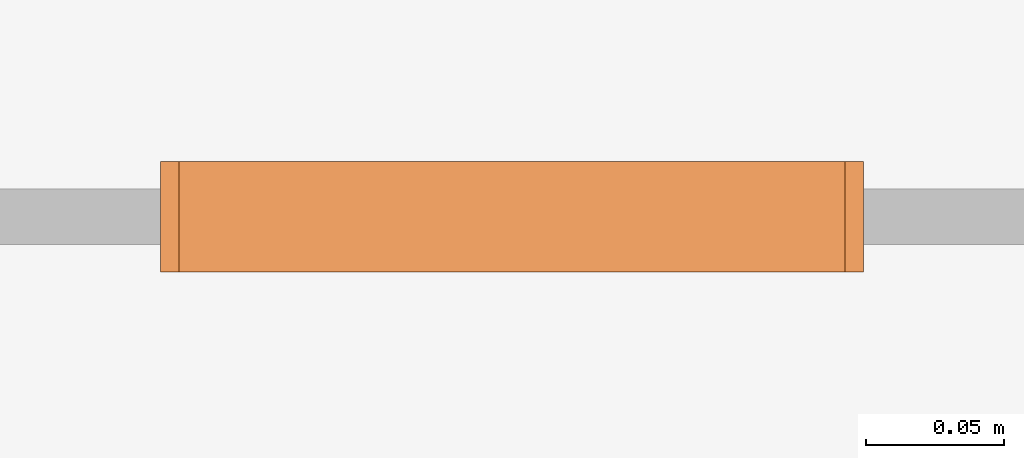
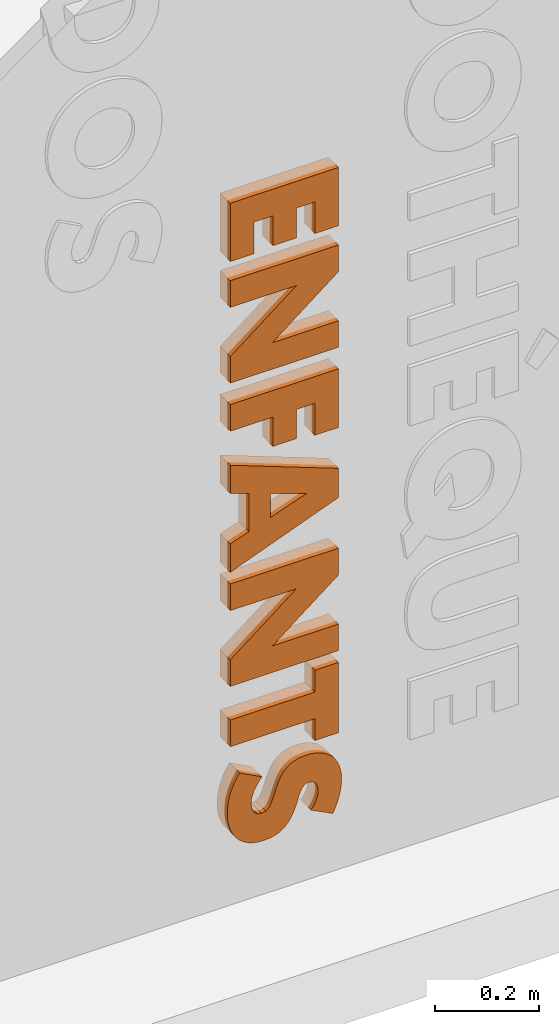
# One storey, part 60 of 64: 1 proxy.
"""IFC2X3 building model written with IfcOpenShell, lengths in metres."""

from ifc_helpers import new_model, entity, si_unit, converted_unit, derived_unit, direction, frame, origin, place, context, subcontext, project, spatial, faceted_brep, source, transform, mapped, material, type_object, type_shapes, element, save


model = new_model("IFC2X3")

# Units and contexts
model_context = context("Model", 3, precision=1e-05, world=origin(), true_north=direction((6.123031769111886e-17, 1.0)))
body_context = subcontext(model_context, "Body", "Model", "MODEL_VIEW")
ifc_project = project(units=[si_unit("LENGTHUNIT", "METRE"), si_unit("AREAUNIT", "SQUARE_METRE"), si_unit("VOLUMEUNIT", "CUBIC_METRE"), converted_unit("PLANEANGLEUNIT", "DEGREE", entity("IfcRatioMeasure", 0.017453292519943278), si_unit("PLANEANGLEUNIT", "RADIAN"), dimensions=[0, 0, 0, 0, 0, 0, 0]), si_unit("MASSUNIT", "GRAM", prefix="KILO"), derived_unit("MASSDENSITYUNIT", [(si_unit("MASSUNIT", "GRAM", prefix="KILO"), 1), (si_unit("LENGTHUNIT", "METRE"), -3)]), derived_unit("MOMENTOFINERTIAUNIT", [(si_unit("LENGTHUNIT", "METRE"), 4)]), si_unit("TIMEUNIT", "SECOND"), si_unit("FREQUENCYUNIT", "HERTZ"), si_unit("THERMODYNAMICTEMPERATUREUNIT", "DEGREE_CELSIUS"), derived_unit("THERMALTRANSMITTANCEUNIT", [(si_unit("MASSUNIT", "GRAM", prefix="KILO"), 1), (si_unit("THERMODYNAMICTEMPERATUREUNIT", "KELVIN"), -1), (si_unit("TIMEUNIT", "SECOND"), -3)]), derived_unit("THERMALCONDUCTANCEUNIT", [(si_unit("MASSUNIT", "GRAM", prefix="KILO"), 1), (si_unit("LENGTHUNIT", "METRE"), 1), (si_unit("THERMODYNAMICTEMPERATUREUNIT", "KELVIN"), -1), (si_unit("TIMEUNIT", "SECOND"), -3)]), derived_unit("VOLUMETRICFLOWRATEUNIT", [(si_unit("LENGTHUNIT", "METRE"), 3), (si_unit("TIMEUNIT", "SECOND"), -1)]), derived_unit("MASSFLOWRATEUNIT", [(si_unit("MASSUNIT", "GRAM", prefix="KILO"), 1), (si_unit("TIMEUNIT", "SECOND"), -1)]), derived_unit("ROTATIONALFREQUENCYUNIT", [(si_unit("TIMEUNIT", "SECOND"), -1)]), si_unit("ELECTRICCURRENTUNIT", "AMPERE"), si_unit("ELECTRICVOLTAGEUNIT", "VOLT"), si_unit("POWERUNIT", "WATT"), si_unit("FORCEUNIT", "NEWTON", prefix="KILO"), si_unit("ILLUMINANCEUNIT", "LUX"), si_unit("LUMINOUSFLUXUNIT", "LUMEN"), si_unit("LUMINOUSINTENSITYUNIT", "CANDELA"), derived_unit("USERDEFINED", [(si_unit("MASSUNIT", "GRAM", prefix="KILO"), -1), (si_unit("LENGTHUNIT", "METRE"), -2), (si_unit("TIMEUNIT", "SECOND"), 3), (si_unit("LUMINOUSFLUXUNIT", "LUMEN"), 1)]), derived_unit("USERDEFINED", [(si_unit("MASSUNIT", "GRAM", prefix="KILO"), 1), (si_unit("LENGTHUNIT", "METRE"), 3), (si_unit("TIMEUNIT", "SECOND"), -3), (si_unit("ELECTRICCURRENTUNIT", "AMPERE"), -2)]), derived_unit("USERDEFINED", [(si_unit("LENGTHUNIT", "METRE"), 2), (si_unit("TIMEUNIT", "SECOND"), -2)]), derived_unit("SOUNDPOWERUNIT", [(si_unit("MASSUNIT", "GRAM", prefix="KILO"), 1), (si_unit("LENGTHUNIT", "METRE"), 2), (si_unit("TIMEUNIT", "SECOND"), -3)]), derived_unit("SOUNDPRESSUREUNIT", [(si_unit("MASSUNIT", "GRAM", prefix="KILO"), 1), (si_unit("LENGTHUNIT", "METRE"), -1), (si_unit("TIMEUNIT", "SECOND"), -2)]), derived_unit("LINEARVELOCITYUNIT", [(si_unit("LENGTHUNIT", "METRE"), 1), (si_unit("TIMEUNIT", "SECOND"), -1)]), si_unit("PRESSUREUNIT", "PASCAL"), derived_unit("USERDEFINED", [(si_unit("LENGTHUNIT", "METRE"), -2), (si_unit("MASSUNIT", "GRAM", prefix="KILO"), 1), (si_unit("TIMEUNIT", "SECOND"), -2)]), derived_unit("LINEARFORCEUNIT", [(si_unit("MASSUNIT", "GRAM", prefix="KILO"), 1), (si_unit("LENGTHUNIT", "METRE"), 1), (si_unit("TIMEUNIT", "SECOND"), -2), (si_unit("LENGTHUNIT", "METRE"), -1)]), derived_unit("PLANARFORCEUNIT", [(si_unit("MASSUNIT", "GRAM", prefix="KILO"), 1), (si_unit("LENGTHUNIT", "METRE"), 1), (si_unit("TIMEUNIT", "SECOND"), -2), (si_unit("LENGTHUNIT", "METRE"), -2)]), derived_unit("SPECIFICHEATCAPACITYUNIT", [(si_unit("LENGTHUNIT", "METRE"), 2), (si_unit("TIMEUNIT", "SECOND"), -2), (si_unit("THERMODYNAMICTEMPERATUREUNIT", "KELVIN"), -1)]), derived_unit("VAPORPERMEABILITYUNIT", [(si_unit("TIMEUNIT", "SECOND"), 1), (si_unit("LENGTHUNIT", "METRE"), -1)]), derived_unit("DYNAMICVISCOSITYUNIT", [(si_unit("MASSUNIT", "GRAM", prefix="KILO"), 1), (si_unit("LENGTHUNIT", "METRE"), -1), (si_unit("TIMEUNIT", "SECOND"), -1)]), derived_unit("THERMALEXPANSIONCOEFFICIENTUNIT", [(si_unit("THERMODYNAMICTEMPERATUREUNIT", "KELVIN"), -1)])], contexts=[model_context])

# Site, building, storey
site_placement = place(None, origin())
site = spatial("IfcSite", under=ifc_project, at=site_placement, Name="Default", CompositionType="ELEMENT")
building_placement = place(site_placement, origin())
building = spatial("IfcBuilding", under=site, at=building_placement, CompositionType="ELEMENT")
storey_placement = place(building_placement, origin())
storey = spatial("IfcBuildingStorey", under=building, at=storey_placement, Name="REZ-DE-CHAUSSÉE", CompositionType="ELEMENT", Elevation=0.0)

# Proxy
ifc_material = material(Name="Air - Vide d'air")
building_element_proxy_type = type_object("IfcBuildingElementProxyType", Name="Symb-0004", PredefinedType="NOTDEFINED", material=ifc_material)
shared_shape = source(origin(), body_context, "Body", "Brep", [
    faceted_brep([(0.19488000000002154, 0.04000000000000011, 1.3891200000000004), (0.24800000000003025, 0.04000000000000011, 1.3891200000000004), (0.24800000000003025, 0.0, 1.3891200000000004), (0.19488000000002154, 0.0, 1.3891200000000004), (0.24800000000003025, 0.04000000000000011, 1.5264000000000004), (0.0067200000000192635, 0.04000000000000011, 1.5264000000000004), (0.0067200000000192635, 0.04000000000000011, 1.3891200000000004), (0.05984000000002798, 0.04000000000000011, 1.3891200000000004), (0.05984000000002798, 0.04000000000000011, 1.4636800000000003), (0.10144000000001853, 0.04000000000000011, 1.4636800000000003), (0.10144000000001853, 0.04000000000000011, 1.3932800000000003), (0.15456000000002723, 0.04000000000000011, 1.3932800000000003), (0.15456000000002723, 0.04000000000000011, 1.4636800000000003), (0.19488000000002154, 0.04000000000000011, 1.4636800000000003), (0.24800000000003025, 0.0, 1.5264000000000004), (0.0067200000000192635, 0.0, 1.5264000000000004), (0.0067200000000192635, 0.0, 1.3891200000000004), (0.05984000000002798, 0.0, 1.3891200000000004), (0.05984000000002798, 0.0, 1.4636800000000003), (0.10144000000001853, 0.0, 1.4636800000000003), (0.10144000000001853, 0.0, 1.3932800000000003), (0.15456000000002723, 0.0, 1.3932800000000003), (0.15456000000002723, 0.0, 1.4636800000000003), (0.19488000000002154, 0.0, 1.4636800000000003), (0.0067200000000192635, 0.04000000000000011, 1.344), (0.0067200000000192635, 0.04000000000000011, 1.2812800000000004), (0.0067200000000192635, 0.0, 1.2812800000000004), (0.0067200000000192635, 0.0, 1.344), (0.24800000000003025, 0.04000000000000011, 1.344), (0.24800000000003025, 0.04000000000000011, 1.2812800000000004), (0.10048000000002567, 0.04000000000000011, 1.1654400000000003), (0.24800000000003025, 0.04000000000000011, 1.1654400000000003), (0.24800000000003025, 0.04000000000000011, 1.1030400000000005), (0.0067200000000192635, 0.04000000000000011, 1.1030400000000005), (0.0067200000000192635, 0.04000000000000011, 1.1654400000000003), (0.15424000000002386, 0.04000000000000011, 1.2812800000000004), (0.15424000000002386, 0.0, 1.2812800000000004), (0.0067200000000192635, 0.0, 1.1654400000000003), (0.0067200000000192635, 0.0, 1.1030400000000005), (0.24800000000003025, 0.0, 1.1030400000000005), (0.24800000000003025, 0.0, 1.1654400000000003), (0.10048000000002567, 0.0, 1.1654400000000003), (0.24800000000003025, 0.0, 1.2812800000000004), (0.24800000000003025, 0.0, 1.344), (0.19488000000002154, 0.04000000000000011, 0.9142400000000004), (0.24800000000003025, 0.04000000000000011, 0.9142400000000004), (0.24800000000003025, 0.0, 0.9142400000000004), (0.19488000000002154, 0.0, 0.9142400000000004), (0.24800000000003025, 0.04000000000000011, 1.0524800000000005), (0.0067200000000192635, 0.04000000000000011, 1.0524800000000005), (0.0067200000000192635, 0.04000000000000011, 0.9897600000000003), (0.10144000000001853, 0.04000000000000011, 0.9897600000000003), (0.10144000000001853, 0.04000000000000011, 0.9209600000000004), (0.15456000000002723, 0.04000000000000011, 0.9209600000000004), (0.15456000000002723, 0.04000000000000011, 0.9897600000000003), (0.19488000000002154, 0.04000000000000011, 0.9897600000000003), (0.24800000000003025, 0.0, 1.0524800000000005), (0.0067200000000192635, 0.0, 1.0524800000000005), (0.0067200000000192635, 0.0, 0.9897600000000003), (0.10144000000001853, 0.0, 0.9897600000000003), (0.10144000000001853, 0.0, 0.9209600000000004), (0.15456000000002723, 0.0, 0.9209600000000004), (0.15456000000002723, 0.0, 0.9897600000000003), (0.19488000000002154, 0.0, 0.9897600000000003), (0.04864000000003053, 0.04000000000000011, 0.7388800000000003), (0.0067200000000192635, 0.04000000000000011, 0.7244800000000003), (0.0067200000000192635, 0.0, 0.7244800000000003), (0.04864000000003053, 0.0, 0.7388800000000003), (0.0067200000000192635, 0.03999999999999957, 0.6576000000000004), (0.24800000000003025, 0.03999999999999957, 0.7494400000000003), (0.24800000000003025, 0.03999999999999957, 0.8179200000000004), (0.0067200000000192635, 0.03999999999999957, 0.9097600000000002), (0.0067200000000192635, 0.03999999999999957, 0.8428800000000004), (0.04864000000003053, 0.03999999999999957, 0.8284800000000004), (0.09632000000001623, 0.03999999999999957, 0.7555200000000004), (0.09632000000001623, 0.03999999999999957, 0.8118400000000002), (0.17664000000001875, 0.03999999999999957, 0.7836800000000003), (0.0067200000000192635, 0.0, 0.6576000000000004), (0.24800000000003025, 0.0, 0.7494400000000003), (0.24800000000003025, 0.0, 0.8179200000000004), (0.0067200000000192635, 0.0, 0.9097600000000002), (0.0067200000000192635, 0.0, 0.8428800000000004), (0.04864000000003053, 0.0, 0.8284800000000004), (0.09632000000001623, 0.0, 0.7555200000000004), (0.09632000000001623, 0.0, 0.8118400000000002), (0.17664000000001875, 0.0, 0.7836800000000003), (0.0067200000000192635, 0.04000000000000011, 0.6300800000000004), (0.0067200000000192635, 0.04000000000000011, 0.5673600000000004), (0.0067200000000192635, 0.0, 0.5673600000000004), (0.0067200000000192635, 0.0, 0.6300800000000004), (0.24800000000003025, 0.04000000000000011, 0.6300800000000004), (0.24800000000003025, 0.04000000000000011, 0.5673600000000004), (0.10048000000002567, 0.04000000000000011, 0.4515200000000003), (0.24800000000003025, 0.04000000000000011, 0.4515200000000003), (0.24800000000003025, 0.04000000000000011, 0.38912000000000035), (0.0067200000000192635, 0.04000000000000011, 0.38912000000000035), (0.0067200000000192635, 0.04000000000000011, 0.4515200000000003), (0.15424000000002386, 0.04000000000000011, 0.5673600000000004), (0.15424000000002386, 0.0, 0.5673600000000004), (0.0067200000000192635, 0.0, 0.4515200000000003), (0.0067200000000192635, 0.0, 0.38912000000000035), (0.24800000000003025, 0.0, 0.38912000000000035), (0.24800000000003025, 0.0, 0.4515200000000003), (0.10048000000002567, 0.0, 0.4515200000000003), (0.24800000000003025, 0.0, 0.5673600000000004), (0.24800000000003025, 0.0, 0.6300800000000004), (0.19488000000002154, 0.04000000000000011, 0.24704000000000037), (0.19488000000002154, 0.04000000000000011, 0.19552000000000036), (0.19488000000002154, 0.0, 0.19552000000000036), (0.19488000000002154, 0.0, 0.24704000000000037), (0.0067200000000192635, 0.03999999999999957, 0.24704000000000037), (0.0067200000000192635, 0.03999999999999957, 0.3097600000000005), (0.19488000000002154, 0.03999999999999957, 0.3097600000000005), (0.19488000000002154, 0.03999999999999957, 0.3612800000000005), (0.24800000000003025, 0.03999999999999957, 0.3612800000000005), (0.24800000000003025, 0.03999999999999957, 0.19552000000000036), (0.24800000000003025, 0.0, 0.19552000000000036), (0.24800000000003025, 0.0, 0.3612800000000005), (0.19488000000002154, 0.0, 0.3612800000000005), (0.19488000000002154, 0.0, 0.3097600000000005), (0.0067200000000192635, 0.0, 0.3097600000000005), (0.0067200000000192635, 0.0, 0.24704000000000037), (0.18624000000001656, 0.04000000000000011, 0.03488000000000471), (0.23520000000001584, 0.04000000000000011, 0.009920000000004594), (0.23520000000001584, 0.0, 0.009920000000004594), (0.18624000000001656, 0.0, 0.03488000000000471), (0.2410844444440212, 0.04000000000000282, 0.02204444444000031), (0.24593777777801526, 0.04000000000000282, 0.03452444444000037), (0.2497600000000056, 0.04000000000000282, 0.047360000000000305), (0.25251555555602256, 0.04000000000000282, 0.06019555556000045), (0.25416888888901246, 0.04000000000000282, 0.07267555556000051), (0.2547200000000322, 0.04000000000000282, 0.08480000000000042), (0.2540800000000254, 0.04000000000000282, 0.09719111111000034), (0.25216000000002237, 0.04000000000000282, 0.10876444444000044), (0.2489600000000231, 0.04000000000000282, 0.11952000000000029), (0.24460444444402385, 0.04000000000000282, 0.12933333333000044), (0.2392177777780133, 0.04000000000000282, 0.1380800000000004), (0.23280000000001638, 0.04000000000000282, 0.14576000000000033), (0.22136000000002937, 0.04000000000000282, 0.15528000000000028), (0.20784000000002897, 0.04000000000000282, 0.1624000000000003), (0.19776000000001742, 0.04000000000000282, 0.16568888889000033), (0.18693333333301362, 0.04000000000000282, 0.16766222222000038), (0.1753600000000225, 0.04000000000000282, 0.16832000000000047), (0.15900000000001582, 0.04000000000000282, 0.1669200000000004), (0.1457600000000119, 0.04000000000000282, 0.16272000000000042), (0.1350800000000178, 0.04000000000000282, 0.15624000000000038), (0.12640000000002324, 0.04000000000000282, 0.14800000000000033), (0.11948000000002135, 0.04000000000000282, 0.13824000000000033), (0.11408000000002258, 0.04000000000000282, 0.12720000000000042), (0.10964000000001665, 0.04000000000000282, 0.1154000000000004), (0.10560000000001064, 0.04000000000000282, 0.10336000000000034), (0.10224000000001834, 0.04000000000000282, 0.09388000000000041), (0.0992000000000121, 0.04000000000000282, 0.08592000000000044), (0.09620000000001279, 0.04000000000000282, 0.07940000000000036), (0.09296000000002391, 0.04000000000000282, 0.0742400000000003), (0.08560000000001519, 0.04000000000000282, 0.06784000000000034), (0.07616000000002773, 0.04000000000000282, 0.06592000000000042), (0.0676800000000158, 0.04000000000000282, 0.06780000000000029), (0.06016000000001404, 0.04000000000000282, 0.0734400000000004), (0.05488000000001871, 0.04000000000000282, 0.08292000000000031), (0.05312000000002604, 0.04000000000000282, 0.09632000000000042), (0.05464000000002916, 0.04000000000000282, 0.10984000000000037), (0.059200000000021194, 0.04000000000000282, 0.1235200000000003), (0.0639644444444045, 0.04000000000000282, 0.13272888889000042), (0.0701511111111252, 0.04000000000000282, 0.1420088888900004), (0.07776000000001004, 0.04000000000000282, 0.15136000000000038), (0.02720000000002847, 0.04000000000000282, 0.1782400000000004), (0.015300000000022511, 0.04000000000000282, 0.15830000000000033), (0.00680000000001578, 0.04000000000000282, 0.13752000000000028), (0.0017000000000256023, 0.04000000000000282, 0.11590000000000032), (0.0, 0.04000000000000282, 0.09344000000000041), (0.0006577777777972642, 0.04000000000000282, 0.07923555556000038), (0.0026311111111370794, 0.04000000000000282, 0.06606222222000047), (0.005920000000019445, 0.04000000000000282, 0.05392000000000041), (0.010400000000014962, 0.04000000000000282, 0.04289777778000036), (0.015946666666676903, 0.04000000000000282, 0.033084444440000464), (0.022560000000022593, 0.04000000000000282, 0.024480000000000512), (0.030186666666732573, 0.04000000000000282, 0.01712000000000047), (0.038773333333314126, 0.04000000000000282, 0.011040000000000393), (0.04832000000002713, 0.04000000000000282, 0.00624000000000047), (0.058737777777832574, 0.04000000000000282, 0.0027733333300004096), (0.0699377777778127, 0.04000000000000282, 0.0006933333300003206), (0.08192000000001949, 0.04000000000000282, 0.0), (0.09911111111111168, 0.04000000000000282, 0.0015822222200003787), (0.1139911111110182, 0.04000000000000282, 0.0063288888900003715), (0.12656000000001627, 0.04000000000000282, 0.014240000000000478), (0.13720888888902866, 0.04000000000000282, 0.025564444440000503), (0.14632888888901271, 0.04000000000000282, 0.04055111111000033), (0.15392000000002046, 0.04000000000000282, 0.05920000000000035), (0.15640000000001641, 0.04000000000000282, 0.0669200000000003), (0.15872000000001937, 0.04000000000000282, 0.07472000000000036), (0.1611600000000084, 0.04000000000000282, 0.08216000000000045), (0.1640000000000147, 0.04000000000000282, 0.08880000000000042), (0.1673200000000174, 0.04000000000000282, 0.09444000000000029), (0.17120000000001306, 0.04000000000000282, 0.09888000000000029), (0.17592000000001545, 0.04000000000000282, 0.1017600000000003), (0.18176000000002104, 0.04000000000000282, 0.10272000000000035), (0.19016000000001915, 0.04000000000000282, 0.10080000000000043), (0.19680000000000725, 0.04000000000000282, 0.09504000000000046), (0.20112000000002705, 0.04000000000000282, 0.08624000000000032), (0.20256000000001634, 0.04000000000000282, 0.07520000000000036), (0.20156000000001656, 0.04000000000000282, 0.06544000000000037), (0.19856000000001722, 0.04000000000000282, 0.055360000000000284), (0.19348000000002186, 0.04000000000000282, 0.045120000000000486), (0.2410844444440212, 0.0, 0.02204444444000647), (0.24593777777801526, 0.0, 0.03452444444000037), (0.2497600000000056, 0.0, 0.047360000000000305), (0.25251555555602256, 0.0, 0.06019555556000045), (0.25416888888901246, 0.0, 0.07267555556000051), (0.2547200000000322, 0.0, 0.08480000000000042), (0.2540800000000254, 0.0, 0.09719111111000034), (0.25216000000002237, 0.0, 0.10876444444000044), (0.2489600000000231, 0.0, 0.11952000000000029), (0.24460444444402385, 0.0, 0.12933333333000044), (0.2392177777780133, 0.0, 0.1380800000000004), (0.23280000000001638, 0.0, 0.14576000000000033), (0.22136000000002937, 0.0, 0.15528000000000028), (0.20784000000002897, 0.0, 0.1624000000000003), (0.19776000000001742, 0.0, 0.16568888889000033), (0.18693333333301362, 0.0, 0.16766222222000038), (0.1753600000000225, 0.0, 0.16832000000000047), (0.15900000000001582, 0.0, 0.1669200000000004), (0.1457600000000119, 0.0, 0.16272000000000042), (0.1350800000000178, 0.0, 0.15624000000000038), (0.12640000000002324, 0.0, 0.14800000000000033), (0.11948000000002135, 0.0, 0.13824000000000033), (0.11408000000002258, 0.0, 0.12720000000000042), (0.10964000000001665, 0.0, 0.1154000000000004), (0.10560000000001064, 0.0, 0.10336000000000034), (0.10224000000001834, 0.0, 0.09388000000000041), (0.0992000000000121, 0.0, 0.08592000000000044), (0.09620000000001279, 0.0, 0.07940000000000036), (0.09296000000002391, 0.0, 0.0742400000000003), (0.08560000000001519, 0.0, 0.06784000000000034), (0.07616000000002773, 0.0, 0.06592000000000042), (0.0676800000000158, 0.0, 0.06780000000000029), (0.06016000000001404, 0.0, 0.0734400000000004), (0.05488000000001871, 0.0, 0.08292000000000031), (0.05312000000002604, 0.0, 0.09632000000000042), (0.05464000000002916, 0.0, 0.10984000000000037), (0.059200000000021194, 0.0, 0.1235200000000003), (0.0639644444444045, 0.0, 0.13272888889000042), (0.0701511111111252, 0.0, 0.1420088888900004), (0.07776000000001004, 0.0, 0.15136000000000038), (0.02720000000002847, 0.0, 0.1782400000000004), (0.015300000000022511, 0.0, 0.15830000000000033), (0.00680000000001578, 0.0, 0.13752000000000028), (0.0017000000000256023, 0.0, 0.11590000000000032), (0.0, 0.0, 0.09344000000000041), (0.0006577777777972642, 0.0, 0.07923555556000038), (0.0026311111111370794, 0.0, 0.06606222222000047), (0.005920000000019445, 0.0, 0.05392000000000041), (0.010400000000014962, 0.0, 0.04289777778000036), (0.015946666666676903, 0.0, 0.033084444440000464), (0.022560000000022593, 0.0, 0.024480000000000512), (0.030186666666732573, 0.0, 0.01712000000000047), (0.038773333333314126, 0.0, 0.011040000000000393), (0.04832000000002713, 0.0, 0.00624000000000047), (0.058737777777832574, 0.0, 0.0027733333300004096), (0.0699377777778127, 0.0, 0.0006933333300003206), (0.08192000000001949, 0.0, 0.0), (0.09911111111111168, 0.0, 0.0015822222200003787), (0.1139911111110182, 0.0, 0.0063288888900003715), (0.12656000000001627, 0.0, 0.014240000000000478), (0.13720888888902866, 0.0, 0.025564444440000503), (0.14632888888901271, 0.0, 0.04055111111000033), (0.15392000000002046, 0.0, 0.05920000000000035), (0.15640000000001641, 0.0, 0.0669200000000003), (0.15872000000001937, 0.0, 0.07472000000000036), (0.1611600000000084, 0.0, 0.08216000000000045), (0.1640000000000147, 0.0, 0.08880000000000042), (0.1673200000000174, 0.0, 0.09444000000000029), (0.17120000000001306, 0.0, 0.09888000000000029), (0.17592000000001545, 0.0, 0.1017600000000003), (0.18176000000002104, 0.0, 0.10272000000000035), (0.19016000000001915, 0.0, 0.10080000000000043), (0.19680000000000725, 0.0, 0.09504000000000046), (0.20112000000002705, 0.0, 0.08624000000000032), (0.20256000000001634, 0.0, 0.07520000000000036), (0.20156000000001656, 0.0, 0.06544000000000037), (0.19856000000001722, 0.0, 0.055360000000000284), (0.19348000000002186, 0.0, 0.045120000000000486)], [[[0, 1, 2, 3]], [[0, 1, 4, 5, 6, 7, 8, 9, 10, 11, 12, 13]], [[1, 4, 14, 2]], [[3, 2, 14, 15, 16, 17, 18, 19, 20, 21, 22, 23]], [[13, 0, 3, 23]], [[12, 13, 23, 22]], [[11, 12, 22, 21]], [[10, 11, 21, 20]], [[9, 10, 20, 19]], [[8, 9, 19, 18]], [[7, 8, 18, 17]], [[6, 7, 17, 16]], [[5, 6, 16, 15]], [[4, 5, 15, 14]], [[24, 25, 26, 27]], [[24, 28, 29, 30, 31, 32, 33, 34, 35, 25]], [[25, 35, 36, 26]], [[27, 26, 36, 37, 38, 39, 40, 41, 42, 43]], [[28, 24, 27, 43]], [[29, 28, 43, 42]], [[30, 29, 42, 41]], [[31, 30, 41, 40]], [[32, 31, 40, 39]], [[33, 32, 39, 38]], [[34, 33, 38, 37]], [[35, 34, 37, 36]], [[44, 45, 46, 47]], [[44, 45, 48, 49, 50, 51, 52, 53, 54, 55]], [[45, 48, 56, 46]], [[47, 46, 56, 57, 58, 59, 60, 61, 62, 63]], [[55, 44, 47, 63]], [[54, 55, 63, 62]], [[53, 54, 62, 61]], [[52, 53, 61, 60]], [[51, 52, 60, 59]], [[50, 51, 59, 58]], [[49, 50, 58, 57]], [[48, 49, 57, 56]], [[64, 65, 66, 67]], [[64, 65, 68, 69, 70, 71, 72, 73], [74, 75, 76]], [[65, 68, 77, 66]], [[67, 66, 77, 78, 79, 80, 81, 82], [83, 84, 85]], [[73, 64, 67, 82]], [[72, 73, 82, 81]], [[71, 72, 81, 80]], [[70, 71, 80, 79]], [[69, 70, 79, 78]], [[68, 69, 78, 77]], [[76, 74, 83, 85]], [[75, 76, 85, 84]], [[74, 75, 84, 83]], [[86, 87, 88, 89]], [[86, 90, 91, 92, 93, 94, 95, 96, 97, 87]], [[87, 97, 98, 88]], [[89, 88, 98, 99, 100, 101, 102, 103, 104, 105]], [[90, 86, 89, 105]], [[91, 90, 105, 104]], [[92, 91, 104, 103]], [[93, 92, 103, 102]], [[94, 93, 102, 101]], [[95, 94, 101, 100]], [[96, 95, 100, 99]], [[97, 96, 99, 98]], [[106, 107, 108, 109]], [[106, 110, 111, 112, 113, 114, 115, 107]], [[107, 115, 116, 108]], [[109, 108, 116, 117, 118, 119, 120, 121]], [[110, 106, 109, 121]], [[111, 110, 121, 120]], [[112, 111, 120, 119]], [[113, 112, 119, 118]], [[114, 113, 118, 117]], [[115, 114, 117, 116]], [[122, 123, 124, 125]], [[122, 123, 126, 127, 128, 129, 130, 131, 132, 133, 134, 135, 136, 137, 138, 139, 140, 141, 142, 143, 144, 145, 146, 147, 148, 149, 150, 151, 152, 153, 154, 155, 156, 157, 158, 159, 160, 161, 162, 163, 164, 165, 166, 167, 168, 169, 170, 171, 172, 173, 174, 175, 176, 177, 178, 179, 180, 181, 182, 183, 184, 185, 186, 187, 188, 189, 190, 191, 192, 193, 194, 195, 196, 197, 198, 199, 200, 201, 202, 203]], [[123, 126, 204, 124]], [[125, 124, 204, 205, 206, 207, 208, 209, 210, 211, 212, 213, 214, 215, 216, 217, 218, 219, 220, 221, 222, 223, 224, 225, 226, 227, 228, 229, 230, 231, 232, 233, 234, 235, 236, 237, 238, 239, 240, 241, 242, 243, 244, 245, 246, 247, 248, 249, 250, 251, 252, 253, 254, 255, 256, 257, 258, 259, 260, 261, 262, 263, 264, 265, 266, 267, 268, 269, 270, 271, 272, 273, 274, 275, 276, 277, 278, 279, 280, 281]], [[203, 122, 125, 281]], [[202, 203, 281, 280]], [[201, 202, 280, 279]], [[200, 201, 279, 278]], [[199, 200, 278, 277]], [[198, 199, 277, 276]], [[197, 198, 276, 275]], [[196, 197, 275, 274]], [[195, 196, 274, 273]], [[194, 195, 273, 272]], [[193, 194, 272, 271]], [[192, 193, 271, 270]], [[191, 192, 270, 269]], [[190, 191, 269, 268]], [[189, 190, 268, 267]], [[188, 189, 267, 266]], [[187, 188, 266, 265]], [[186, 187, 265, 264]], [[185, 186, 264, 263]], [[184, 185, 263, 262]], [[183, 184, 262, 261]], [[182, 183, 261, 260]], [[181, 182, 260, 259]], [[180, 181, 259, 258]], [[179, 180, 258, 257]], [[178, 179, 257, 256]], [[177, 178, 256, 255]], [[176, 177, 255, 254]], [[175, 176, 254, 253]], [[174, 175, 253, 252]], [[173, 174, 252, 251]], [[172, 173, 251, 250]], [[171, 172, 250, 249]], [[170, 171, 249, 248]], [[169, 170, 248, 247]], [[168, 169, 247, 246]], [[167, 168, 246, 245]], [[166, 167, 245, 244]], [[165, 166, 244, 243]], [[164, 165, 243, 242]], [[163, 164, 242, 241]], [[162, 163, 241, 240]], [[161, 162, 240, 239]], [[160, 161, 239, 238]], [[159, 160, 238, 237]], [[158, 159, 237, 236]], [[157, 158, 236, 235]], [[156, 157, 235, 234]], [[155, 156, 234, 233]], [[154, 155, 233, 232]], [[153, 154, 232, 231]], [[152, 153, 231, 230]], [[151, 152, 230, 229]], [[150, 151, 229, 228]], [[149, 150, 228, 227]], [[148, 149, 227, 226]], [[147, 148, 226, 225]], [[146, 147, 225, 224]], [[145, 146, 224, 223]], [[144, 145, 223, 222]], [[143, 144, 222, 221]], [[142, 143, 221, 220]], [[141, 142, 220, 219]], [[140, 141, 219, 218]], [[139, 140, 218, 217]], [[138, 139, 217, 216]], [[137, 138, 216, 215]], [[136, 137, 215, 214]], [[135, 136, 214, 213]], [[134, 135, 213, 212]], [[133, 134, 212, 211]], [[132, 133, 211, 210]], [[131, 132, 210, 209]], [[130, 131, 209, 208]], [[129, 130, 208, 207]], [[128, 129, 207, 206]], [[127, 128, 206, 205]], [[126, 127, 205, 204]]]),
])
type_shapes(building_element_proxy_type, [shared_shape])
proxy_placement = place(storey_placement, frame((123.11402673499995, 4.42720948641, 0.1339399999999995)))
element("IfcBuildingElementProxy", 1, at=proxy_placement, inside=storey, type_object=building_element_proxy_type, material=ifc_material, Name="Symb-0004 93556:Symb-0004 93556", ObjectType="Symb-0004 93556:Symb-0004 93556", context=body_context, shape_type="MappedRepresentation", body=[
    mapped(shared_shape, transform((0.0, 0.0, 0.0), scale=1.0)),
])

save(model, "model.ifc")
